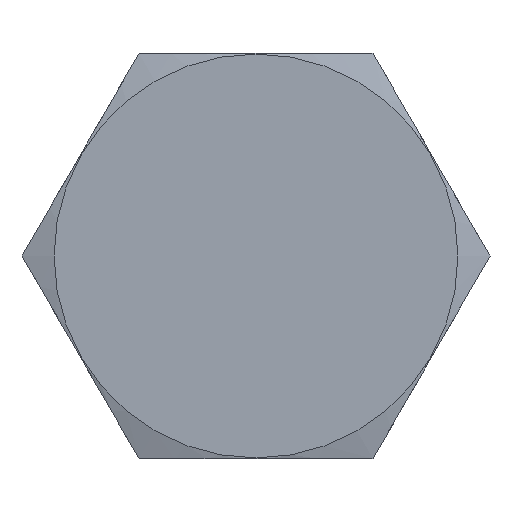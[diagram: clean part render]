
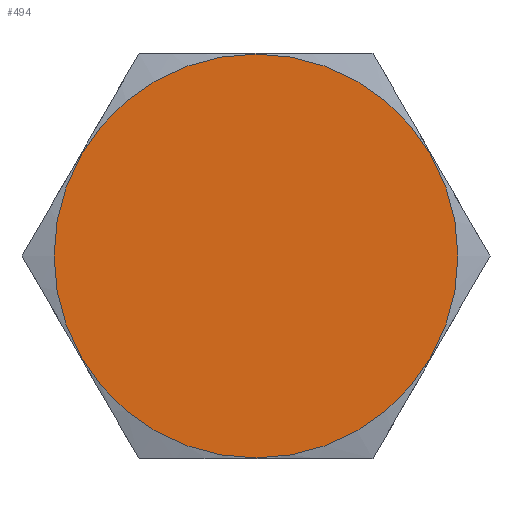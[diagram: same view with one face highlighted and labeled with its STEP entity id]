
A CAD part, left-side view. The second image highlights one B-rep face of the part: STEP entity #494.
In plain terms, the highlighted planar face has unit normal (-1, 0, 0).
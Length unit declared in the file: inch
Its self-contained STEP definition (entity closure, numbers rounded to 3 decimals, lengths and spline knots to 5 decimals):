
#309=CARTESIAN_POINT('',(-0.748,0.0,0.6875));
#310=VERTEX_POINT('',#309);
#311=CARTESIAN_POINT('',(-0.748,0.0,0.));
#312=DIRECTION('',(-1.0,0.0,0.0));
#313=DIRECTION('',(0.0,0.0,1.0));
#314=AXIS2_PLACEMENT_3D('',#311,#312,#313);
#315=CIRCLE('',#314,0.6875);
#316=EDGE_CURVE('',#310,#310,#315,.T.);
#486=CARTESIAN_POINT('',(-0.748,0.0,0.));
#487=DIRECTION('',(1.0,0.0,0.0));
#488=DIRECTION('',(0.0,0.0,-1.0));
#489=AXIS2_PLACEMENT_3D('',#486,#487,#488);
#490=PLANE('',#489);
#491=ORIENTED_EDGE('',*,*,#316,.T.);
#492=EDGE_LOOP('',(#491));
#493=FACE_OUTER_BOUND('',#492,.T.);
#494=ADVANCED_FACE('',(#493),#490,.F.);
